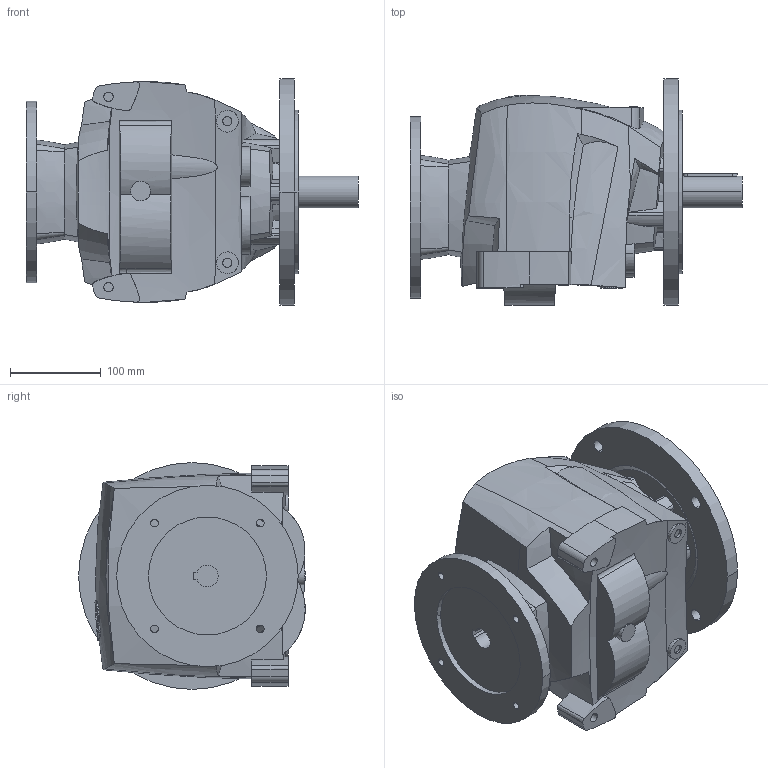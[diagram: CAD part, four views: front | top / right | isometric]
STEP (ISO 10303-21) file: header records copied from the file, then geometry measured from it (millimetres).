
FILE_DESCRIPTION((''),'2;1');
FILE_NAME('R35_250_PAM90','2013-11-26T',('Luca'),(''),'PRO/ENGINEER BY PARAMETRIC TECHNOLOGY CORPORATION, 2008230','PRO/ENGINEER BY PARAMETRIC TECHNOLOGY CORPORATION, 2008230','');
FILE_SCHEMA(('CONFIG_CONTROL_DESIGN'));
Length unit declared in the file: millimetre
Products named in the file (1): R35_250_PAM90
Bounding box: 366.06 x 250 x 250 mm (x, y, z)
Volume: 9535893.4 mm3; surface area: 442763.9 mm2
Topology: 3 solids, 17 shells, 465 faces, 1207 edges, 811 vertices
Faces by surface type: cylinder 153, plane 113, extrusion 92, bspline 74, cone 24, torus 9
Entity records: 23175 total; most frequent: CARTESIAN_POINT 12846, ORIENTED_EDGE 2408, DIRECTION 1573, EDGE_CURVE 1204, VERTEX_POINT 811, B_SPLINE_CURVE_WITH_KNOTS 658, AXIS2_PLACEMENT_3D 544, EDGE_LOOP 517
